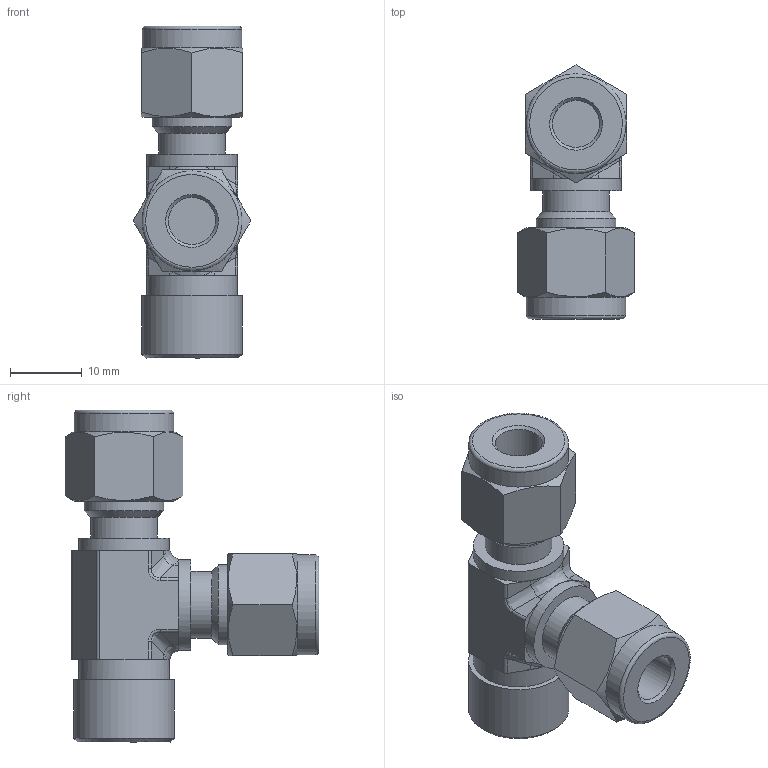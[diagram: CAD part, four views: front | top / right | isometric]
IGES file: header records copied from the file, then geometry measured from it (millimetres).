
Global section: file name: SFRT-4-2N; native system: Autodesk Inventor 2016; preprocessor: unknown; author: DESIGNPC2; date: 20151031.102321; units: millimetre
Bounding box: 16.4 x 35.34 x 46.24 mm (x, y, z)
Volume: 7684.1 mm3; surface area: 4531 mm2
Topology: 1 solids, 1 shells, 109 faces, 275 edges, 184 vertices
Faces by surface type: bspline 109
